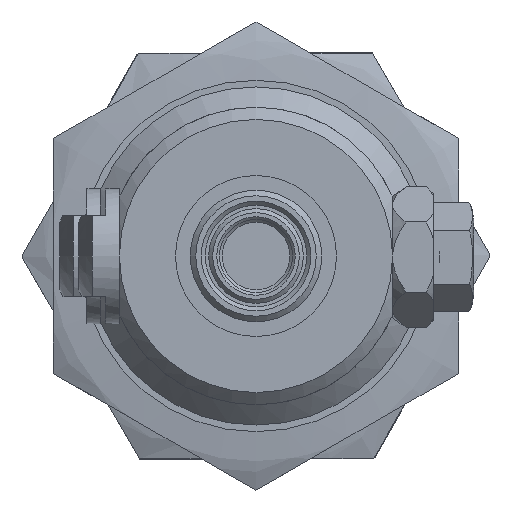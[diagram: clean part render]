
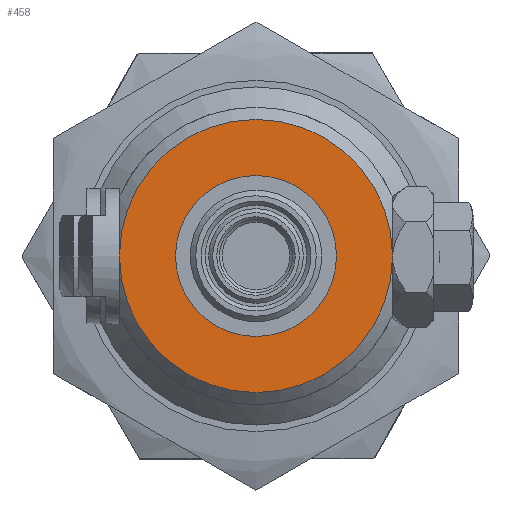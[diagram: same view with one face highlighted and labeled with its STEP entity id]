
A CAD part, left-side view. The second image highlights one B-rep face of the part: STEP entity #458.
In plain terms, the highlighted planar face has unit normal (-1, 0, 0).
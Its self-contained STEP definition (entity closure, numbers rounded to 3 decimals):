
#458 = ADVANCED_FACE( '', ( #1069, #1070 ), #1071, .F. );
#1069 = FACE_OUTER_BOUND( '', #1961, .T. );
#1070 = FACE_BOUND( '', #1962, .T. );
#1071 = PLANE( '', #1963 );
#1961 = EDGE_LOOP( '', ( #3046, #3047 ) );
#1962 = EDGE_LOOP( '', ( #3048 ) );
#1963 = AXIS2_PLACEMENT_3D( '', #3049, #3050, #3051 );
#3046 = ORIENTED_EDGE( '', *, *, #4404, .T. );
#3047 = ORIENTED_EDGE( '', *, *, #4405, .T. );
#3048 = ORIENTED_EDGE( '', *, *, #4406, .F. );
#3049 = CARTESIAN_POINT( '', ( -8.5, 0., 10.1 ) );
#3050 = DIRECTION( '', ( 1., 0., 0. ) );
#3051 = DIRECTION( '', ( 0., 1., 0. ) );
#4404 = EDGE_CURVE( '', #5111, #5112, #5113, .T. );
#4405 = EDGE_CURVE( '', #5112, #5111, #5114, .T. );
#4406 = EDGE_CURVE( '', #5115, #5115, #5116, .T. );
#5111 = VERTEX_POINT( '', #6350 );
#5112 = VERTEX_POINT( '', #6351 );
#5113 = CIRCLE( '', #6352, 10.1 );
#5114 = CIRCLE( '', #6353, 10.1 );
#5115 = VERTEX_POINT( '', #6354 );
#5116 = CIRCLE( '', #6355, 5.95 );
#6350 = CARTESIAN_POINT( '', ( -8.5, 10.1, 0. ) );
#6351 = CARTESIAN_POINT( '', ( -8.5, -10.1, 0. ) );
#6352 = AXIS2_PLACEMENT_3D( '', #7553, #7554, #7555 );
#6353 = AXIS2_PLACEMENT_3D( '', #7556, #7557, #7558 );
#6354 = CARTESIAN_POINT( '', ( -8.5, 0., 5.95 ) );
#6355 = AXIS2_PLACEMENT_3D( '', #7559, #7560, #7561 );
#7553 = CARTESIAN_POINT( '', ( -8.5, 0., 0. ) );
#7554 = DIRECTION( '', ( -1., 0., 0. ) );
#7555 = DIRECTION( '', ( 0., 0., 1. ) );
#7556 = CARTESIAN_POINT( '', ( -8.5, 0., 0. ) );
#7557 = DIRECTION( '', ( -1., 0., 0. ) );
#7558 = DIRECTION( '', ( 0., 0., 1. ) );
#7559 = CARTESIAN_POINT( '', ( -8.5, 0., 0. ) );
#7560 = DIRECTION( '', ( -1., 0., 0. ) );
#7561 = DIRECTION( '', ( 0., 0., 1. ) );
